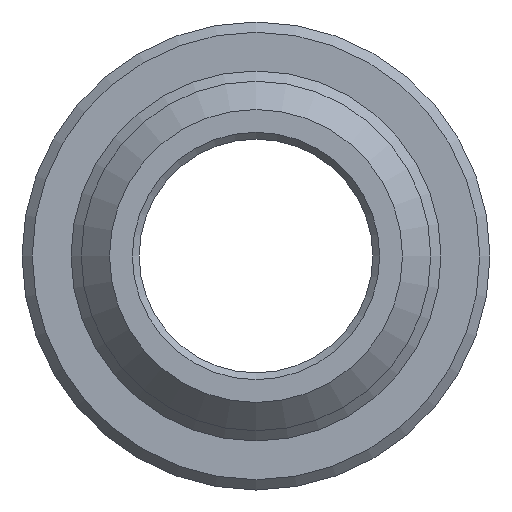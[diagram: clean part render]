
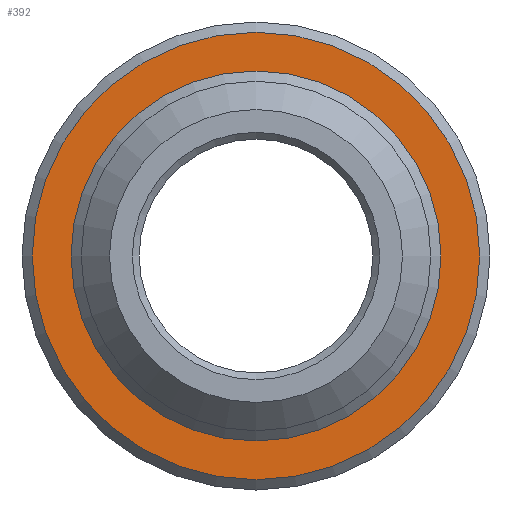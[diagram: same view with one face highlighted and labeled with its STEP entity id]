
A CAD part, front view. The second image highlights one B-rep face of the part: STEP entity #392.
In plain terms, the highlighted planar face has unit normal (0, -1, 0).
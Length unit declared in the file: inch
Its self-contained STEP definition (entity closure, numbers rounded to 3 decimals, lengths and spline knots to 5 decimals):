
#33=FACE_BOUND('',#86,.T.);
#44=PLANE('',#443);
#60=FACE_OUTER_BOUND('',#85,.T.);
#85=EDGE_LOOP('',(#316));
#86=EDGE_LOOP('',(#317));
#158=CIRCLE('',#442,0.27154);
#159=CIRCLE('',#444,0.3285);
#195=VERTEX_POINT('',#678);
#196=VERTEX_POINT('',#682);
#243=EDGE_CURVE('',#195,#195,#158,.T.);
#244=EDGE_CURVE('',#196,#196,#159,.T.);
#316=ORIENTED_EDGE('',*,*,#244,.F.);
#317=ORIENTED_EDGE('',*,*,#243,.F.);
#392=ADVANCED_FACE('',(#60,#33),#44,.T.);
#442=AXIS2_PLACEMENT_3D('',#680,#536,#537);
#443=AXIS2_PLACEMENT_3D('',#681,#538,#539);
#444=AXIS2_PLACEMENT_3D('',#683,#540,#541);
#536=DIRECTION('center_axis',(0.,-1.,0.));
#537=DIRECTION('ref_axis',(0.,0.,-1.));
#538=DIRECTION('center_axis',(0.,-1.,0.));
#539=DIRECTION('ref_axis',(0.,0.,-1.));
#540=DIRECTION('center_axis',(0.,1.,0.));
#541=DIRECTION('ref_axis',(0.,0.,1.));
#678=CARTESIAN_POINT('',(0.,10.5,0.27154));
#680=CARTESIAN_POINT('Origin',(0.,10.5,0.));
#681=CARTESIAN_POINT('Origin',(0.,10.5,-0.27));
#682=CARTESIAN_POINT('',(0.,10.5,-0.3285));
#683=CARTESIAN_POINT('Origin',(0.,10.5,0.));
